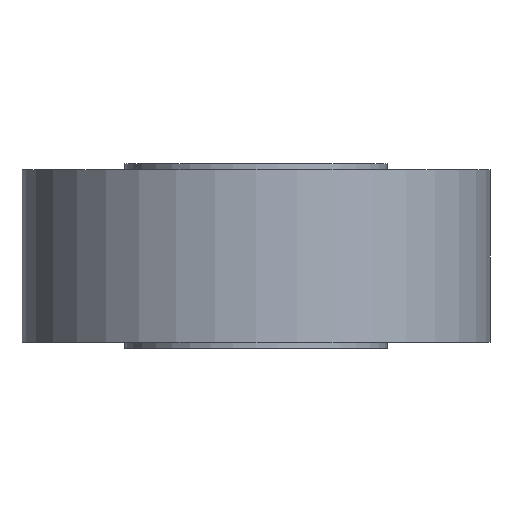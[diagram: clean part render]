
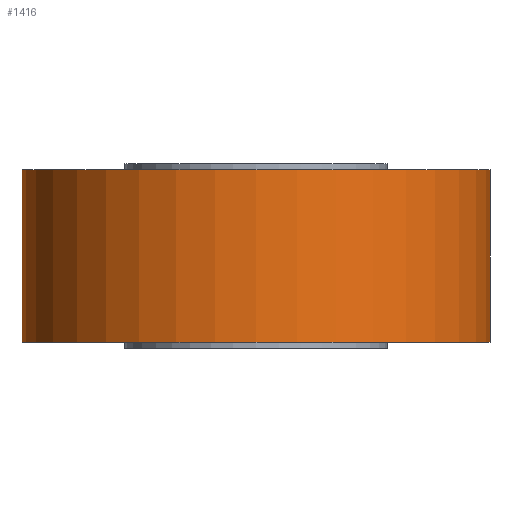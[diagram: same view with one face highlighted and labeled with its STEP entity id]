
A CAD part, front view. The second image highlights one B-rep face of the part: STEP entity #1416.
In plain terms, the highlighted cylindrical face has radius 19 mm (diameter 38 mm), a full revolution.
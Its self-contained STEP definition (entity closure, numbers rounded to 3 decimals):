
#53=B_SPLINE_CURVE_WITH_KNOTS('',3,(#2292,#2293,#2294,#2295,#2296,#2297,
#2298,#2299,#2300,#2301,#2302,#2303,#2304,#2305,#2306,#2307,#2308,#2309,
#2310),.UNSPECIFIED.,.F.,.F.,(4,2,2,2,3,2,2,2,4),(2.272,2.461,
2.65,2.84,3.029,3.218,3.408,
3.597,3.786),.UNSPECIFIED.);
#54=B_SPLINE_CURVE_WITH_KNOTS('',3,(#2311,#2312,#2313,#2314,#2315,#2316,
#2317,#2318,#2319,#2320,#2321,#2322,#2323,#2324,#2325,#2326,#2327,#2328),
 .UNSPECIFIED.,.F.,.F.,(4,2,2,2,2,2,2,2,4),(0.757,0.947,
1.136,1.325,1.514,1.704,1.893,
2.082,2.272),.UNSPECIFIED.);
#57=FACE_BOUND('',#207,.T.);
#117=FACE_OUTER_BOUND('',#206,.T.);
#206=EDGE_LOOP('',(#966,#967,#968,#969,#970,#971));
#207=EDGE_LOOP('',(#972,#973));
#310=LINE('',#2286,#378);
#378=VECTOR('',#1777,19.);
#452=CIRCLE('',#1530,19.);
#453=CIRCLE('',#1531,19.);
#454=CIRCLE('',#1533,19.);
#455=CIRCLE('',#1534,19.);
#586=VERTEX_POINT('',#2280);
#587=VERTEX_POINT('',#2281);
#588=VERTEX_POINT('',#2285);
#589=VERTEX_POINT('',#2287);
#590=VERTEX_POINT('',#2290);
#591=VERTEX_POINT('',#2291);
#741=EDGE_CURVE('',#586,#587,#452,.T.);
#742=EDGE_CURVE('',#587,#586,#453,.T.);
#743=EDGE_CURVE('',#587,#588,#310,.T.);
#744=EDGE_CURVE('',#588,#589,#454,.T.);
#745=EDGE_CURVE('',#589,#588,#455,.T.);
#746=EDGE_CURVE('',#590,#591,#53,.T.);
#747=EDGE_CURVE('',#591,#590,#54,.T.);
#966=ORIENTED_EDGE('',*,*,#741,.F.);
#967=ORIENTED_EDGE('',*,*,#742,.F.);
#968=ORIENTED_EDGE('',*,*,#743,.T.);
#969=ORIENTED_EDGE('',*,*,#744,.T.);
#970=ORIENTED_EDGE('',*,*,#745,.T.);
#971=ORIENTED_EDGE('',*,*,#743,.F.);
#972=ORIENTED_EDGE('',*,*,#746,.T.);
#973=ORIENTED_EDGE('',*,*,#747,.T.);
#1381=CYLINDRICAL_SURFACE('',#1532,19.);
#1416=ADVANCED_FACE('',(#117,#57),#1381,.T.);
#1530=AXIS2_PLACEMENT_3D('',#2282,#1771,#1772);
#1531=AXIS2_PLACEMENT_3D('',#2283,#1773,#1774);
#1532=AXIS2_PLACEMENT_3D('',#2284,#1775,#1776);
#1533=AXIS2_PLACEMENT_3D('',#2288,#1778,#1779);
#1534=AXIS2_PLACEMENT_3D('',#2289,#1780,#1781);
#1771=DIRECTION('center_axis',(0.,0.,1.));
#1772=DIRECTION('ref_axis',(1.,0.,0.));
#1773=DIRECTION('center_axis',(0.,0.,1.));
#1774=DIRECTION('ref_axis',(1.,0.,0.));
#1775=DIRECTION('center_axis',(0.,0.,1.));
#1776=DIRECTION('ref_axis',(1.,0.,0.));
#1777=DIRECTION('',(0.,0.,-1.));
#1778=DIRECTION('center_axis',(0.,0.,1.));
#1779=DIRECTION('ref_axis',(1.,0.,0.));
#1780=DIRECTION('center_axis',(0.,0.,1.));
#1781=DIRECTION('ref_axis',(1.,0.,0.));
#2280=CARTESIAN_POINT('',(19.,0.,14.5));
#2281=CARTESIAN_POINT('',(-19.,0.,14.5));
#2282=CARTESIAN_POINT('Origin',(0.,0.,14.5));
#2283=CARTESIAN_POINT('Origin',(0.,0.,14.5));
#2284=CARTESIAN_POINT('Origin',(0.,0.,7.5));
#2285=CARTESIAN_POINT('',(-19.,0.,0.5));
#2286=CARTESIAN_POINT('',(-19.,0.,7.5));
#2287=CARTESIAN_POINT('',(19.,0.,0.5));
#2288=CARTESIAN_POINT('Origin',(0.,0.,0.5));
#2289=CARTESIAN_POINT('Origin',(0.,0.,0.5));
#2290=CARTESIAN_POINT('',(0.,19.,2.5));
#2291=CARTESIAN_POINT('',(0.,19.,12.5));
#2292=CARTESIAN_POINT('Ctrl Pts',(0.,19.,2.5));
#2293=CARTESIAN_POINT('Ctrl Pts',(0.631,19.,2.5));
#2294=CARTESIAN_POINT('Ctrl Pts',(1.302,18.965,2.627));
#2295=CARTESIAN_POINT('Ctrl Pts',(2.533,18.841,3.138));
#2296=CARTESIAN_POINT('Ctrl Pts',(3.093,18.752,3.522));
#2297=CARTESIAN_POINT('Ctrl Pts',(3.978,18.584,4.407));
#2298=CARTESIAN_POINT('Ctrl Pts',(4.362,18.494,4.967));
#2299=CARTESIAN_POINT('Ctrl Pts',(4.873,18.366,6.198));
#2300=CARTESIAN_POINT('Ctrl Pts',(5.,18.33,6.869));
#2301=CARTESIAN_POINT('Ctrl Pts',(5.,18.33,7.5));
#2302=CARTESIAN_POINT('Ctrl Pts',(5.,18.33,8.131));
#2303=CARTESIAN_POINT('Ctrl Pts',(4.873,18.366,8.802));
#2304=CARTESIAN_POINT('Ctrl Pts',(4.362,18.494,10.033));
#2305=CARTESIAN_POINT('Ctrl Pts',(3.978,18.584,10.593));
#2306=CARTESIAN_POINT('Ctrl Pts',(3.093,18.752,11.478));
#2307=CARTESIAN_POINT('Ctrl Pts',(2.533,18.841,11.862));
#2308=CARTESIAN_POINT('Ctrl Pts',(1.302,18.965,12.373));
#2309=CARTESIAN_POINT('Ctrl Pts',(0.631,19.,12.5));
#2310=CARTESIAN_POINT('Ctrl Pts',(0.,19.,12.5));
#2311=CARTESIAN_POINT('Ctrl Pts',(0.,19.,12.5));
#2312=CARTESIAN_POINT('Ctrl Pts',(-0.631,19.,12.5));
#2313=CARTESIAN_POINT('Ctrl Pts',(-1.302,18.965,12.373));
#2314=CARTESIAN_POINT('Ctrl Pts',(-2.533,18.841,11.862));
#2315=CARTESIAN_POINT('Ctrl Pts',(-3.093,18.752,11.478));
#2316=CARTESIAN_POINT('Ctrl Pts',(-3.978,18.584,10.593));
#2317=CARTESIAN_POINT('Ctrl Pts',(-4.362,18.494,10.033));
#2318=CARTESIAN_POINT('Ctrl Pts',(-4.873,18.366,8.802));
#2319=CARTESIAN_POINT('Ctrl Pts',(-5.,18.33,8.131));
#2320=CARTESIAN_POINT('Ctrl Pts',(-5.,18.33,6.869));
#2321=CARTESIAN_POINT('Ctrl Pts',(-4.873,18.366,6.198));
#2322=CARTESIAN_POINT('Ctrl Pts',(-4.362,18.494,4.967));
#2323=CARTESIAN_POINT('Ctrl Pts',(-3.978,18.584,4.407));
#2324=CARTESIAN_POINT('Ctrl Pts',(-3.093,18.752,3.522));
#2325=CARTESIAN_POINT('Ctrl Pts',(-2.533,18.841,3.138));
#2326=CARTESIAN_POINT('Ctrl Pts',(-1.302,18.965,2.627));
#2327=CARTESIAN_POINT('Ctrl Pts',(-0.631,19.,2.5));
#2328=CARTESIAN_POINT('Ctrl Pts',(0.,19.,2.5));
